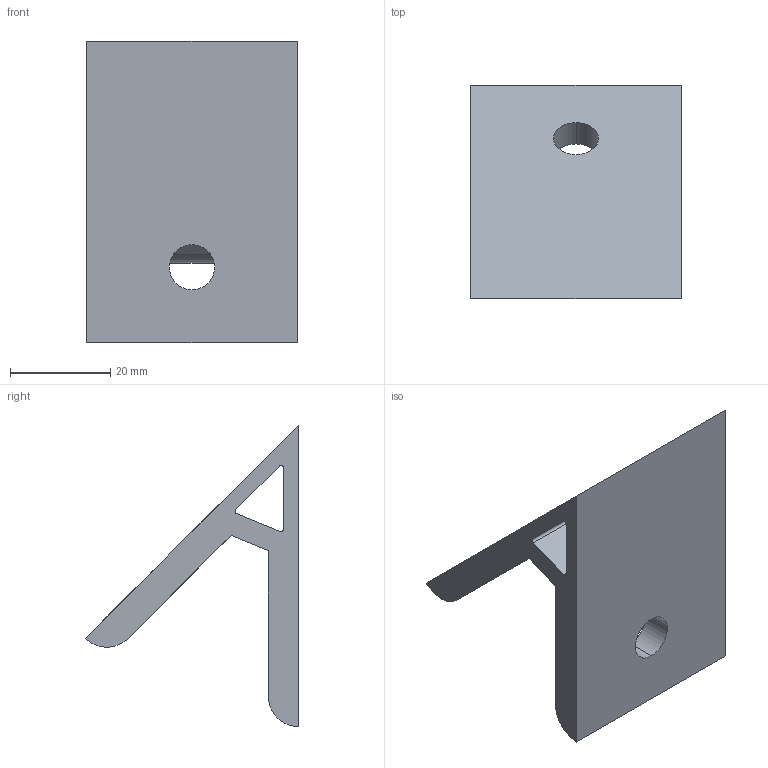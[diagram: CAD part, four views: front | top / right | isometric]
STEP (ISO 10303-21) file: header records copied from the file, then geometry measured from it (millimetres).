
FILE_DESCRIPTION (( 'STEP AP203' ), '1' );
FILE_NAME ('6167.STEP', '2016-06-27T14:14:44', ( 'RosInstal-MKM' ), ( '' ), 'SwSTEP 2.0', 'SolidWorks 2014', '' );
FILE_SCHEMA (( 'CONFIG_CONTROL_DESIGN' ));
Length unit declared in the file: millimetre
Products named in the file (1): 6167
Bounding box: 42 x 42.43 x 60 mm (x, y, z)
Volume: 23856 mm3; surface area: 11411.3 mm2
Topology: 1 solids, 1 shells, 20 faces, 54 edges, 36 vertices
Faces by surface type: cylinder 10, plane 10
Entity records: 727 total; most frequent: DIRECTION 116, CARTESIAN_POINT 111, ORIENTED_EDGE 108, EDGE_CURVE 54, AXIS2_PLACEMENT_3D 41, VERTEX_POINT 36, LINE 34, VECTOR 34
